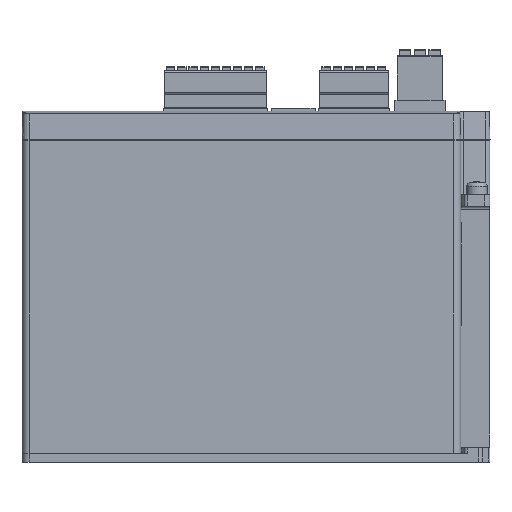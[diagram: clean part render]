
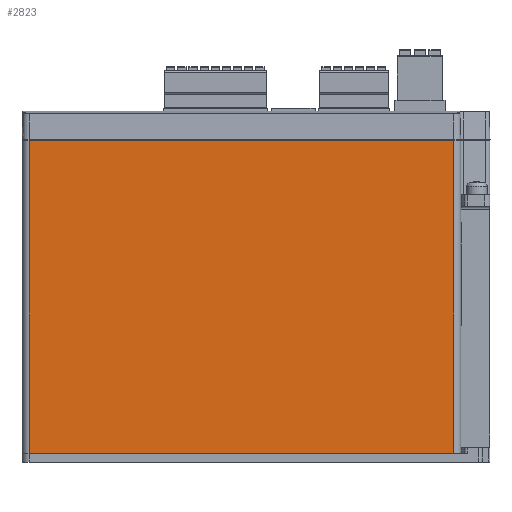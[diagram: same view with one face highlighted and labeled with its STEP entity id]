
A CAD part, left-side view. The second image highlights one B-rep face of the part: STEP entity #2823.
In plain terms, the highlighted planar face has unit normal (-1, 0, 0).
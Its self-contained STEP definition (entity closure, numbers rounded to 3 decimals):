
#1728 = EDGE_CURVE ( 'NONE', #13728, #34649, #28979, .T. ) ;
#2737 = VERTEX_POINT ( 'NONE', #45769 ) ;
#2823 = ADVANCED_FACE ( 'NONE', ( #3829 ), #42534, .F. ) ;
#3419 = LINE ( 'NONE', #26747, #41932 ) ;
#3829 = FACE_OUTER_BOUND ( 'NONE', #19939, .T. ) ;
#4299 = CARTESIAN_POINT ( 'NONE',  ( 0., 0., 110. ) ) ;
#4873 = CARTESIAN_POINT ( 'NONE',  ( 0., 157.6, 3. ) ) ;
#6546 = LINE ( 'NONE', #4299, #16490 ) ;
#9181 = VECTOR ( 'NONE', #46529, 1000. ) ;
#9492 = VERTEX_POINT ( 'NONE', #4873 ) ;
#13728 = VERTEX_POINT ( 'NONE', #28361 ) ;
#14637 = ORIENTED_EDGE ( 'NONE', *, *, #27523, .F. ) ;
#15278 = EDGE_CURVE ( 'NONE', #34649, #9492, #24854, .T. ) ;
#16490 = VECTOR ( 'NONE', #19287, 1000. ) ;
#19287 = DIRECTION ( 'NONE',  ( 0., -1., 0. ) ) ;
#19410 = DIRECTION ( 'NONE',  ( 0., 0., 1. ) ) ;
#19939 = EDGE_LOOP ( 'NONE', ( #32002, #31040, #14637, #44287 ) ) ;
#20162 = DIRECTION ( 'NONE',  ( 1., 0., 0. ) ) ;
#21345 = AXIS2_PLACEMENT_3D ( 'NONE', #31257, #20162, #46273 ) ;
#24854 = LINE ( 'NONE', #28080, #42392 ) ;
#26747 = CARTESIAN_POINT ( 'NONE',  ( 0., 157.6, 169.924 ) ) ;
#27523 = EDGE_CURVE ( 'NONE', #2737, #13728, #6546, .T. ) ;
#28080 = CARTESIAN_POINT ( 'NONE',  ( 0., 0., 3. ) ) ;
#28361 = CARTESIAN_POINT ( 'NONE',  ( 0., 12.4, 110. ) ) ;
#28401 = DIRECTION ( 'NONE',  ( 0., 1., 0. ) ) ;
#28979 = LINE ( 'NONE', #31513, #9181 ) ;
#30407 = EDGE_CURVE ( 'NONE', #9492, #2737, #3419, .T. ) ;
#31040 = ORIENTED_EDGE ( 'NONE', *, *, #1728, .F. ) ;
#31257 = CARTESIAN_POINT ( 'NONE',  ( 0., 0., 169.924 ) ) ;
#31513 = CARTESIAN_POINT ( 'NONE',  ( 0., 12.4, 169.924 ) ) ;
#32002 = ORIENTED_EDGE ( 'NONE', *, *, #15278, .F. ) ;
#34361 = CARTESIAN_POINT ( 'NONE',  ( 0., 12.4, 3. ) ) ;
#34649 = VERTEX_POINT ( 'NONE', #34361 ) ;
#41932 = VECTOR ( 'NONE', #19410, 1000. ) ;
#42392 = VECTOR ( 'NONE', #28401, 1000. ) ;
#42534 = PLANE ( 'NONE',  #21345 ) ;
#44287 = ORIENTED_EDGE ( 'NONE', *, *, #30407, .F. ) ;
#45769 = CARTESIAN_POINT ( 'NONE',  ( 0., 157.6, 110. ) ) ;
#46273 = DIRECTION ( 'NONE',  ( 0., 1., 0. ) ) ;
#46529 = DIRECTION ( 'NONE',  ( 0., 0., -1. ) ) ;
